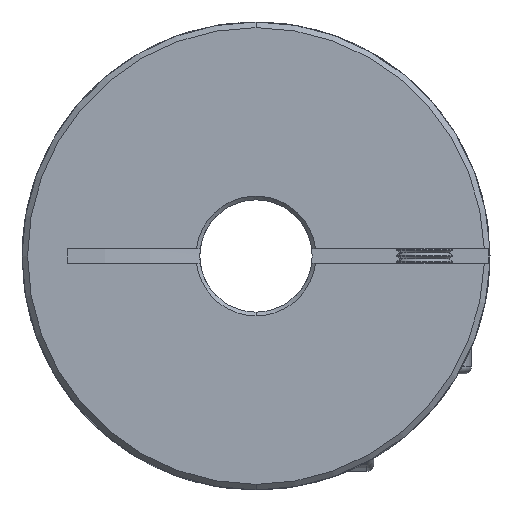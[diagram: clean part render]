
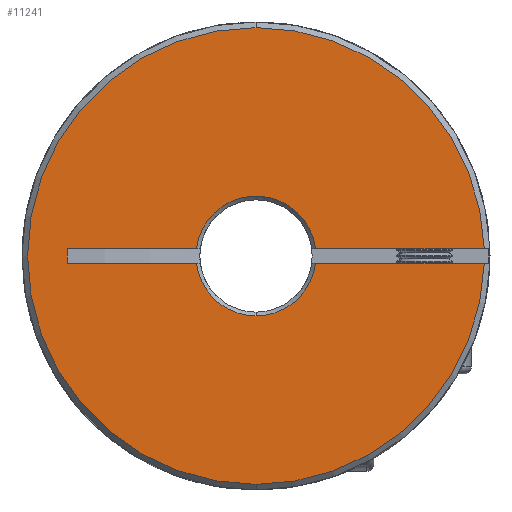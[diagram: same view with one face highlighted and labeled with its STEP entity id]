
A CAD part, front view. The second image highlights one B-rep face of the part: STEP entity #11241.
In plain terms, the highlighted planar face has unit normal (0, -1, 0).
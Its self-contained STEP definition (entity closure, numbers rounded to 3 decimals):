
#309 = CARTESIAN_POINT ( 'NONE',  ( 0., 0., 0. ) ) ;
#522 = PLANE ( 'NONE',  #13276 ) ;
#614 = EDGE_CURVE ( 'NONE', #11406, #4045, #11000, .T. ) ;
#654 = LINE ( 'NONE', #1738, #12661 ) ;
#931 = CIRCLE ( 'NONE', #5442, 24.4 ) ;
#1568 = CIRCLE ( 'NONE', #2828, 6.4 ) ;
#1586 = CARTESIAN_POINT ( 'NONE',  ( -6.356, 0., -0.75 ) ) ;
#1587 = EDGE_CURVE ( 'NONE', #3613, #17478, #654, .T. ) ;
#1738 = CARTESIAN_POINT ( 'NONE',  ( -50., 0., 0.75 ) ) ;
#2003 = EDGE_CURVE ( 'NONE', #4045, #10202, #13504, .T. ) ;
#2086 = CIRCLE ( 'NONE', #2575, 6.4 ) ;
#2400 = ORIENTED_EDGE ( 'NONE', *, *, #13984, .T. ) ;
#2575 = AXIS2_PLACEMENT_3D ( 'NONE', #15681, #17042, #11669 ) ;
#2717 = CARTESIAN_POINT ( 'NONE',  ( 0., 0., 0. ) ) ;
#2770 = ORIENTED_EDGE ( 'NONE', *, *, #1587, .T. ) ;
#2828 = AXIS2_PLACEMENT_3D ( 'NONE', #13609, #4075, #6842 ) ;
#2831 = EDGE_CURVE ( 'NONE', #8788, #6773, #2086, .T. ) ;
#3116 = VERTEX_POINT ( 'NONE', #16670 ) ;
#3179 = VECTOR ( 'NONE', #9854, 1000. ) ;
#3469 = VECTOR ( 'NONE', #11441, 1000. ) ;
#3613 = VERTEX_POINT ( 'NONE', #12978 ) ;
#4045 = VERTEX_POINT ( 'NONE', #4361 ) ;
#4075 = DIRECTION ( 'NONE',  ( 0., 1., 0. ) ) ;
#4361 = CARTESIAN_POINT ( 'NONE',  ( -20.149, 0., 0.75 ) ) ;
#4585 = DIRECTION ( 'NONE',  ( 0., 0., 1. ) ) ;
#4617 = ORIENTED_EDGE ( 'NONE', *, *, #6061, .T. ) ;
#4841 = DIRECTION ( 'NONE',  ( 0., 0., 1. ) ) ;
#4898 = CARTESIAN_POINT ( 'NONE',  ( 0., 0., 0. ) ) ;
#5442 = AXIS2_PLACEMENT_3D ( 'NONE', #4898, #12953, #4841 ) ;
#5676 = DIRECTION ( 'NONE',  ( 1., 0., 0. ) ) ;
#5722 = DIRECTION ( 'NONE',  ( 0., 0., 1. ) ) ;
#6012 = EDGE_CURVE ( 'NONE', #7234, #8788, #1568, .T. ) ;
#6061 = EDGE_CURVE ( 'NONE', #10202, #3613, #14637, .T. ) ;
#6255 = CARTESIAN_POINT ( 'NONE',  ( 0., 0., -6.4 ) ) ;
#6368 = CARTESIAN_POINT ( 'NONE',  ( 0., 0., -24.4 ) ) ;
#6646 = CARTESIAN_POINT ( 'NONE',  ( -20.149, 0., -0.75 ) ) ;
#6773 = VERTEX_POINT ( 'NONE', #1586 ) ;
#6790 = ORIENTED_EDGE ( 'NONE', *, *, #2003, .T. ) ;
#6842 = DIRECTION ( 'NONE',  ( 0., 0., 1. ) ) ;
#6902 = DIRECTION ( 'NONE',  ( 0., -1., 0. ) ) ;
#7193 = CIRCLE ( 'NONE', #14492, 24.4 ) ;
#7234 = VERTEX_POINT ( 'NONE', #16792 ) ;
#7241 = AXIS2_PLACEMENT_3D ( 'NONE', #2717, #13669, #16197 ) ;
#7473 = DIRECTION ( 'NONE',  ( 1., 0., 0. ) ) ;
#7604 = DIRECTION ( 'NONE',  ( 0., -1., 0. ) ) ;
#8040 = ORIENTED_EDGE ( 'NONE', *, *, #14904, .F. ) ;
#8511 = CARTESIAN_POINT ( 'NONE',  ( -50., 0., 0.75 ) ) ;
#8548 = EDGE_CURVE ( 'NONE', #3116, #9832, #7193, .T. ) ;
#8590 = VERTEX_POINT ( 'NONE', #16435 ) ;
#8788 = VERTEX_POINT ( 'NONE', #6255 ) ;
#8802 = CARTESIAN_POINT ( 'NONE',  ( -6.356, 0., 0.75 ) ) ;
#9832 = VERTEX_POINT ( 'NONE', #6368 ) ;
#9854 = DIRECTION ( 'NONE',  ( 1., 0., 0. ) ) ;
#10202 = VERTEX_POINT ( 'NONE', #8802 ) ;
#10263 = FACE_OUTER_BOUND ( 'NONE', #13843, .T. ) ;
#10744 = ORIENTED_EDGE ( 'NONE', *, *, #8548, .T. ) ;
#11000 = LINE ( 'NONE', #6646, #16473 ) ;
#11156 = CARTESIAN_POINT ( 'NONE',  ( -50., 0., 32.858 ) ) ;
#11241 = ADVANCED_FACE ( 'NONE', ( #10263 ), #522, .F. ) ;
#11406 = VERTEX_POINT ( 'NONE', #11455 ) ;
#11441 = DIRECTION ( 'NONE',  ( 1., 0., 0. ) ) ;
#11455 = CARTESIAN_POINT ( 'NONE',  ( -20.149, 0., -0.75 ) ) ;
#11660 = CIRCLE ( 'NONE', #12657, 24.4 ) ;
#11669 = DIRECTION ( 'NONE',  ( 0., 0., 1. ) ) ;
#12031 = DIRECTION ( 'NONE',  ( 0., 0., 1. ) ) ;
#12241 = ORIENTED_EDGE ( 'NONE', *, *, #14359, .T. ) ;
#12412 = CARTESIAN_POINT ( 'NONE',  ( 24.388, 0., 0.75 ) ) ;
#12509 = CARTESIAN_POINT ( 'NONE',  ( -50., 0., -0.75 ) ) ;
#12578 = ORIENTED_EDGE ( 'NONE', *, *, #13965, .F. ) ;
#12657 = AXIS2_PLACEMENT_3D ( 'NONE', #15654, #7604, #15765 ) ;
#12661 = VECTOR ( 'NONE', #5676, 1000. ) ;
#12706 = DIRECTION ( 'NONE',  ( 0., 1., 0. ) ) ;
#12953 = DIRECTION ( 'NONE',  ( 0., -1., 0. ) ) ;
#12978 = CARTESIAN_POINT ( 'NONE',  ( 6.356, 0., 0.75 ) ) ;
#13276 = AXIS2_PLACEMENT_3D ( 'NONE', #11156, #12706, #4585 ) ;
#13504 = LINE ( 'NONE', #8511, #3179 ) ;
#13609 = CARTESIAN_POINT ( 'NONE',  ( 0., 0., 0. ) ) ;
#13669 = DIRECTION ( 'NONE',  ( 0., 1., 0. ) ) ;
#13843 = EDGE_LOOP ( 'NONE', ( #12578, #14924, #15897, #8040, #14503, #6790, #4617, #2770, #2400, #10744, #12241 ) ) ;
#13965 = EDGE_CURVE ( 'NONE', #7234, #8590, #14417, .T. ) ;
#13984 = EDGE_CURVE ( 'NONE', #17478, #3116, #931, .T. ) ;
#14359 = EDGE_CURVE ( 'NONE', #9832, #8590, #11660, .T. ) ;
#14417 = LINE ( 'NONE', #12509, #3469 ) ;
#14492 = AXIS2_PLACEMENT_3D ( 'NONE', #309, #6902, #5722 ) ;
#14503 = ORIENTED_EDGE ( 'NONE', *, *, #614, .T. ) ;
#14637 = CIRCLE ( 'NONE', #7241, 6.4 ) ;
#14904 = EDGE_CURVE ( 'NONE', #11406, #6773, #15861, .T. ) ;
#14924 = ORIENTED_EDGE ( 'NONE', *, *, #6012, .T. ) ;
#15446 = VECTOR ( 'NONE', #7473, 1000. ) ;
#15654 = CARTESIAN_POINT ( 'NONE',  ( 0., 0., 0. ) ) ;
#15681 = CARTESIAN_POINT ( 'NONE',  ( 0., 0., 0. ) ) ;
#15765 = DIRECTION ( 'NONE',  ( 0., 0., 1. ) ) ;
#15861 = LINE ( 'NONE', #16877, #15446 ) ;
#15897 = ORIENTED_EDGE ( 'NONE', *, *, #2831, .T. ) ;
#16197 = DIRECTION ( 'NONE',  ( 0., 0., 1. ) ) ;
#16435 = CARTESIAN_POINT ( 'NONE',  ( 24.388, 0., -0.75 ) ) ;
#16473 = VECTOR ( 'NONE', #12031, 1000. ) ;
#16670 = CARTESIAN_POINT ( 'NONE',  ( 0., 0., 24.4 ) ) ;
#16792 = CARTESIAN_POINT ( 'NONE',  ( 6.356, 0., -0.75 ) ) ;
#16877 = CARTESIAN_POINT ( 'NONE',  ( -50., 0., -0.75 ) ) ;
#17042 = DIRECTION ( 'NONE',  ( 0., 1., 0. ) ) ;
#17478 = VERTEX_POINT ( 'NONE', #12412 ) ;
